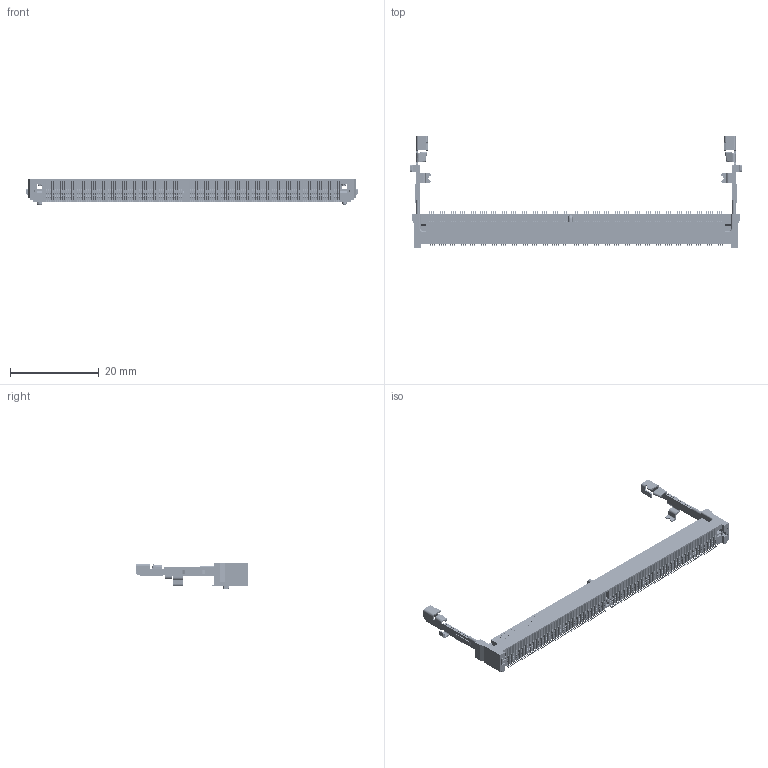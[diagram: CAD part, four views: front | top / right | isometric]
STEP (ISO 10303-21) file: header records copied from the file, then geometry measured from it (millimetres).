
FILE_DESCRIPTION((''),'2;1');
FILE_NAME('DDR5_52H_ASM_SW0001','2021-07-13T',('jiangjunguang'),(''),'PRO/ENGINEER BY PARAMETRIC TECHNOLOGY CORPORATION, 2009360','PRO/ENGINEER BY PARAMETRIC TECHNOLOGY CORPORATION, 2009360','');
FILE_SCHEMA(('CONFIG_CONTROL_DESIGN'));
Products named in the file (1): DDR5_52H_ASM_SW0001
Bounding box: 74.92 x 25.06 x 5.75 mm (x, y, z)
Volume: 1676.7 mm3; surface area: 4446.2 mm2
Topology: 1 solids, 1 shells, 17828 faces, 52326 edges, 33637 vertices
Faces by surface type: plane 12184, cylinder 5521, extrusion 84, bspline 24, torus 11, cone 4
Entity records: 595526 total; most frequent: CARTESIAN_POINT 113276, ORIENTED_EDGE 104652, DIRECTION 97978, EDGE_CURVE 52326, VECTOR 41012, LINE 40928, VERTEX_POINT 33637, AXIS2_PLACEMENT_3D 28483
